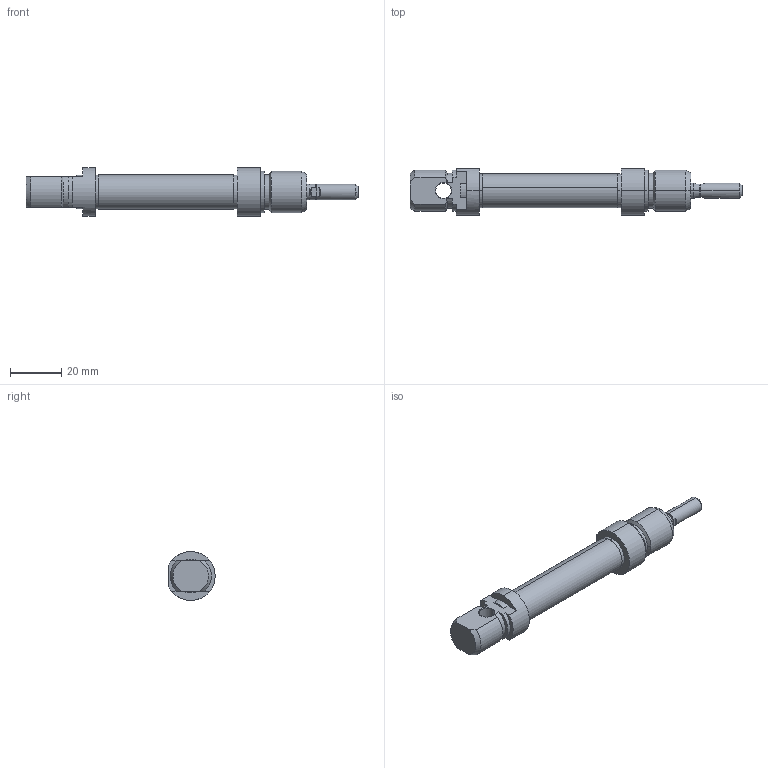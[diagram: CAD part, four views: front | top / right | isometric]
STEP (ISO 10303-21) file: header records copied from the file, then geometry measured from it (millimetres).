
FILE_DESCRIPTION (( 'STEP AP214' ), '1' );
FILE_NAME ('23_00094.STEP', '2017-01-03T14:26:29', ( '' ), ( '' ), 'SwSTEP 2.0', 'SolidWorks 2016', '' );
FILE_SCHEMA (( 'AUTOMOTIVE_DESIGN' ));
Length unit declared in the file: millimetre
Products named in the file (1): 23_00094
Bounding box: 129 x 18 x 19 mm (x, y, z)
Volume: 18881.9 mm3; surface area: 7282.9 mm2
Topology: 4 solids, 4 shells, 113 faces, 267 edges, 174 vertices
Faces by surface type: cylinder 45, plane 38, cone 28, bspline 2
Entity records: 4759 total; most frequent: CARTESIAN_POINT 763, DIRECTION 603, ORIENTED_EDGE 534, EDGE_CURVE 267, AXIS2_PLACEMENT_3D 244, VERTEX_POINT 174, CIRCLE 132, EDGE_LOOP 127
